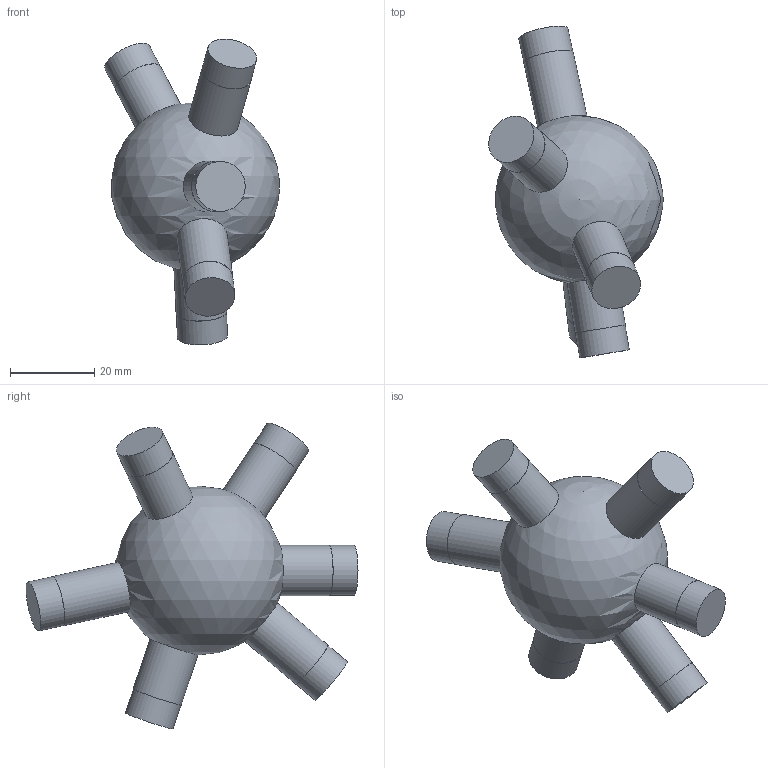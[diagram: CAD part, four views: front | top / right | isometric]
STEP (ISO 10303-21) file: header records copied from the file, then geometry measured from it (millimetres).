
FILE_DESCRIPTION(('Open CASCADE Model'),'2;1');
FILE_NAME('Open CASCADE Shape Model','2026-10-21T12:47:57',('Author'),( 'Open CASCADE'),'Open CASCADE STEP processor 7.9','Open CASCADE 7.9' ,'Unknown');
FILE_SCHEMA(('AUTOMOTIVE_DESIGN { 1 0 10303 214 1 1 1 1 }'));
Length unit declared in the file: millimetre
Products named in the file (1): Open CASCADE STEP translator 7.9 57
Bounding box: 41.44 x 78.77 x 72.58 mm (x, y, z)
Volume: 46547.8 mm3; surface area: 9472.6 mm2
Topology: 1 solids, 1 shells, 25 faces, 39 edges, 26 vertices
Faces by surface type: cylinder 12, plane 12, sphere 1
Full cylindrical faces by diameter (mm): 11.9 x6, 12 x6
Entity records: 1527 total; most frequent: CARTESIAN_POINT 662, DIRECTION 178, ORIENTED_EDGE 72, PCURVE 72, DEFINITIONAL_REPRESENTATION 72, LINE 60, VECTOR 60, AXIS2_PLACEMENT_3D 50
